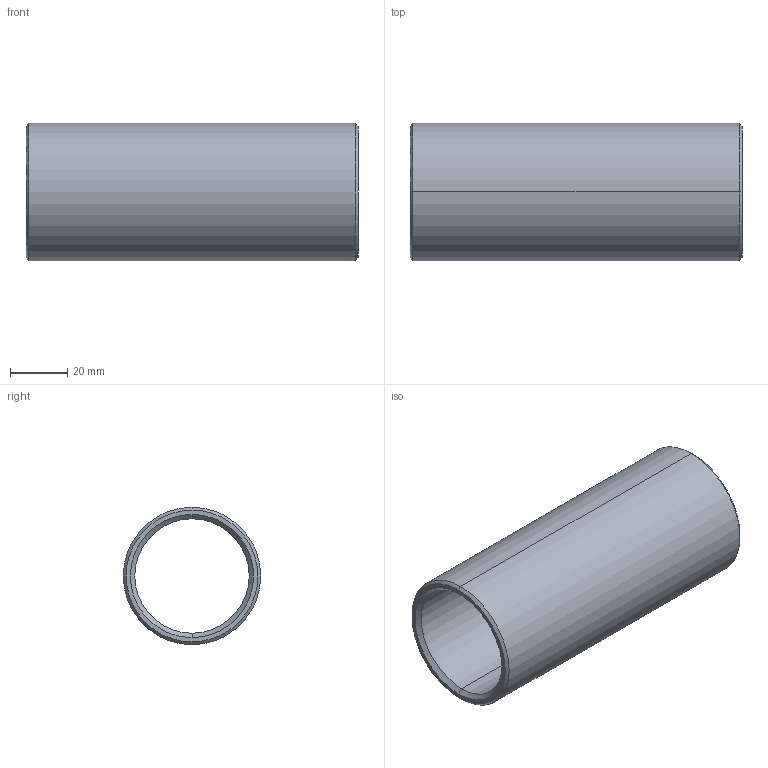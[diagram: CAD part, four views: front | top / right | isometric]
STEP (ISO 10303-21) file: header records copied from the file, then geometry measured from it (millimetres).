
FILE_DESCRIPTION(('CATIA V5 STEP Exchange'),'2;1');
FILE_NAME('C:\Users\Utente\Desktop\IO LAVORO\3D X SITO CF\X SITO\PLASTICA\352\352-40X116.stp','2021-04-15T06:16:03+00:00',('none'),('none'),'CATIA Version 5 Release 20 GA (IN-10)','CATIA V5 STEP AP203','none');
FILE_SCHEMA(('CONFIG_CONTROL_DESIGN'));
Length unit declared in the file: millimetre
Products named in the file (1): 352-40X116
Bounding box: 116 x 48 x 48 mm (x, y, z)
Volume: 63817.9 mm3; surface area: 32835 mm2
Topology: 1 solids, 1 shells, 14 faces, 44 edges, 32 vertices
Faces by surface type: cone 6, cylinder 4, plane 2, torus 2
Entity records: 634 total; most frequent: CARTESIAN_POINT 203, ORIENTED_EDGE 88, DIRECTION 64, EDGE_CURVE 44, AXIS2_PLACEMENT_3D 41, VERTEX_POINT 32, CIRCLE 26, EDGE_LOOP 16
